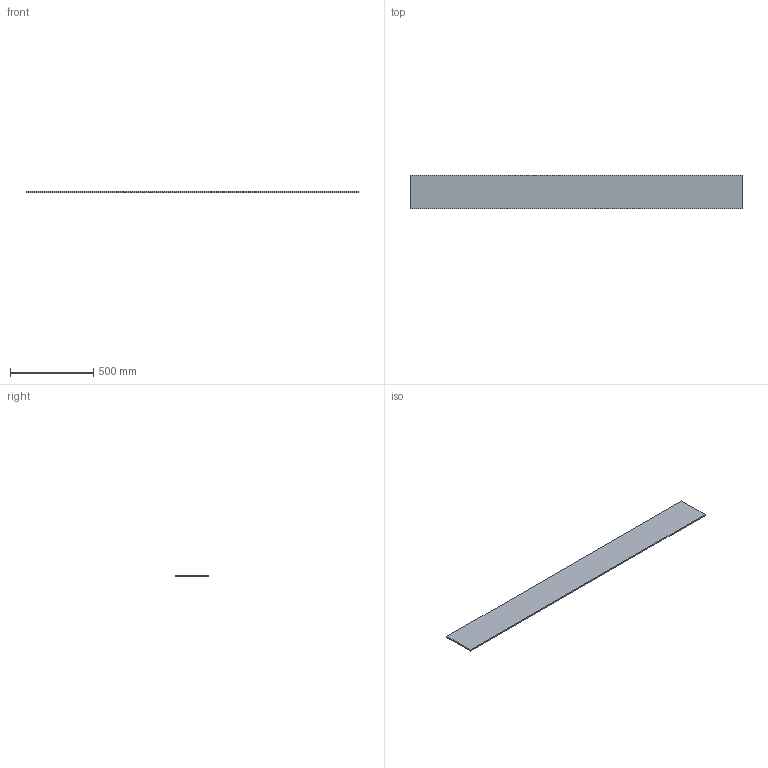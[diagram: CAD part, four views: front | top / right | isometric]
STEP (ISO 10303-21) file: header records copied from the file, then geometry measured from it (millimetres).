
FILE_DESCRIPTION(('Open CASCADE Model'),'2;1');
FILE_NAME('Open CASCADE Shape Model','2026-10-19T10:09:20',('Author'),( 'Open CASCADE'),'Open CASCADE STEP processor 8.0','Open CASCADE 8.0' ,'Unknown');
FILE_SCHEMA(('AUTOMOTIVE_DESIGN { 1 0 10303 214 1 1 1 1 }'));
Length unit declared in the file: millimetre
Products named in the file (1): PORTICO_CIERRE_IPE200_2000x200x8_P05 104
Bounding box: 2000 x 200 x 8 mm (x, y, z)
Volume: 3200000 mm3; surface area: 835200 mm2
Topology: 1 solids, 1 shells, 6 faces, 12 edges, 8 vertices
Faces by surface type: plane 6
Entity records: 322 total; most frequent: CARTESIAN_POINT 51, DIRECTION 50, LINE 36, VECTOR 36, ORIENTED_EDGE 24, PCURVE 24, DEFINITIONAL_REPRESENTATION 24, EDGE_CURVE 12
